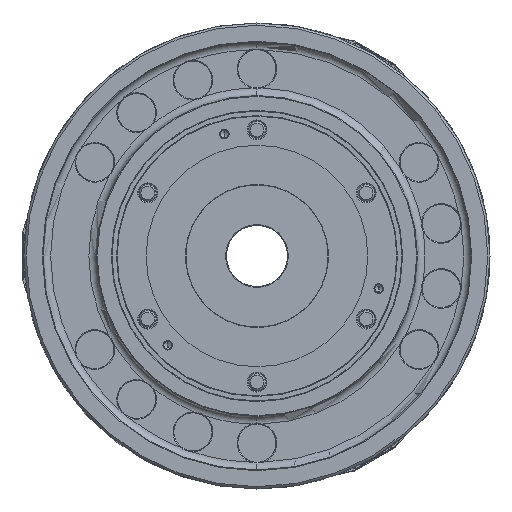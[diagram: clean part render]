
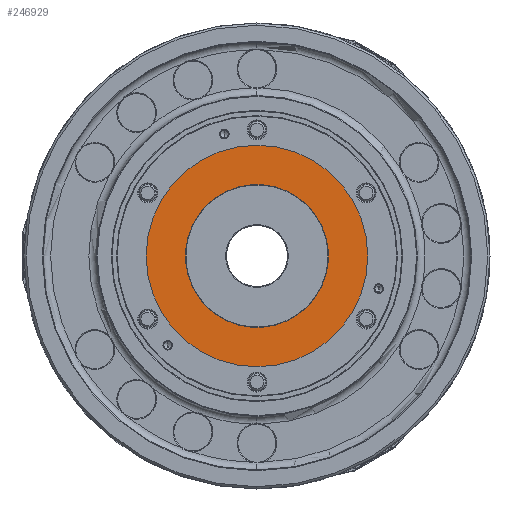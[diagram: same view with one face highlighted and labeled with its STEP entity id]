
A CAD part, left-side view. The second image highlights one B-rep face of the part: STEP entity #246929.
In plain terms, the highlighted planar face has unit normal (-1, 0, 0).
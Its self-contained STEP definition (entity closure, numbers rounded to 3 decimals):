
#6821 = CIRCLE ( 'NONE', #159565, 93.5 ) ;
#10715 = CIRCLE ( 'NONE', #82940, 145. ) ;
#34674 = CIRCLE ( 'NONE', #74722, 145. ) ;
#34694 = DIRECTION ( 'NONE',  ( -1., 0., 0. ) ) ;
#37183 = CARTESIAN_POINT ( 'NONE',  ( -115., 0., 0. ) ) ;
#38080 = DIRECTION ( 'NONE',  ( -1., 0., 0. ) ) ;
#60568 = EDGE_CURVE ( 'NONE', #224026, #188786, #6821, .T. ) ;
#65437 = CARTESIAN_POINT ( 'NONE',  ( -115., 86., 0. ) ) ;
#74722 = AXIS2_PLACEMENT_3D ( 'NONE', #163762, #89424, #128460 ) ;
#82869 = ORIENTED_EDGE ( 'NONE', *, *, #84799, .T. ) ;
#82940 = AXIS2_PLACEMENT_3D ( 'NONE', #118719, #195495, #176631 ) ;
#84295 = FACE_OUTER_BOUND ( 'NONE', #85047, .T. ) ;
#84799 = EDGE_CURVE ( 'NONE', #173086, #210550, #34674, .T. ) ;
#85047 = EDGE_LOOP ( 'NONE', ( #109477, #82869 ) ) ;
#89424 = DIRECTION ( 'NONE',  ( -1., 0., 0. ) ) ;
#90891 = CARTESIAN_POINT ( 'NONE',  ( -115., 0., 145. ) ) ;
#102401 = ORIENTED_EDGE ( 'NONE', *, *, #144484, .F. ) ;
#109477 = ORIENTED_EDGE ( 'NONE', *, *, #237590, .T. ) ;
#111471 = DIRECTION ( 'NONE',  ( 0., 0., -1. ) ) ;
#118719 = CARTESIAN_POINT ( 'NONE',  ( -115., 0., 0. ) ) ;
#119617 = FACE_BOUND ( 'NONE', #220574, .T. ) ;
#123294 = DIRECTION ( 'NONE',  ( 0., 0., -1. ) ) ;
#128460 = DIRECTION ( 'NONE',  ( 0., 0., 1. ) ) ;
#141311 = AXIS2_PLACEMENT_3D ( 'NONE', #150184, #38080, #244597 ) ;
#142223 = DIRECTION ( 'NONE',  ( 1., 0., 0. ) ) ;
#144484 = EDGE_CURVE ( 'NONE', #188786, #224026, #221623, .T. ) ;
#150184 = CARTESIAN_POINT ( 'NONE',  ( -115., 0., 0. ) ) ;
#159565 = AXIS2_PLACEMENT_3D ( 'NONE', #37183, #34694, #111471 ) ;
#161118 = PLANE ( 'NONE',  #239745 ) ;
#163762 = CARTESIAN_POINT ( 'NONE',  ( -115., 0., 0. ) ) ;
#168458 = CARTESIAN_POINT ( 'NONE',  ( -115., 24.2, 90.314 ) ) ;
#173086 = VERTEX_POINT ( 'NONE', #191811 ) ;
#176631 = DIRECTION ( 'NONE',  ( 0., 0., 1. ) ) ;
#188786 = VERTEX_POINT ( 'NONE', #168458 ) ;
#191811 = CARTESIAN_POINT ( 'NONE',  ( -115., 0., -145. ) ) ;
#195495 = DIRECTION ( 'NONE',  ( -1., 0., 0. ) ) ;
#201318 = CARTESIAN_POINT ( 'NONE',  ( -115., -24.2, -90.314 ) ) ;
#210550 = VERTEX_POINT ( 'NONE', #90891 ) ;
#212274 = ORIENTED_EDGE ( 'NONE', *, *, #60568, .F. ) ;
#220574 = EDGE_LOOP ( 'NONE', ( #102401, #212274 ) ) ;
#221623 = CIRCLE ( 'NONE', #141311, 93.5 ) ;
#224026 = VERTEX_POINT ( 'NONE', #201318 ) ;
#237590 = EDGE_CURVE ( 'NONE', #210550, #173086, #10715, .T. ) ;
#239745 = AXIS2_PLACEMENT_3D ( 'NONE', #65437, #142223, #123294 ) ;
#244597 = DIRECTION ( 'NONE',  ( 0., 0., -1. ) ) ;
#246929 = ADVANCED_FACE ( 'NONE', ( #84295, #119617 ), #161118, .F. ) ;
